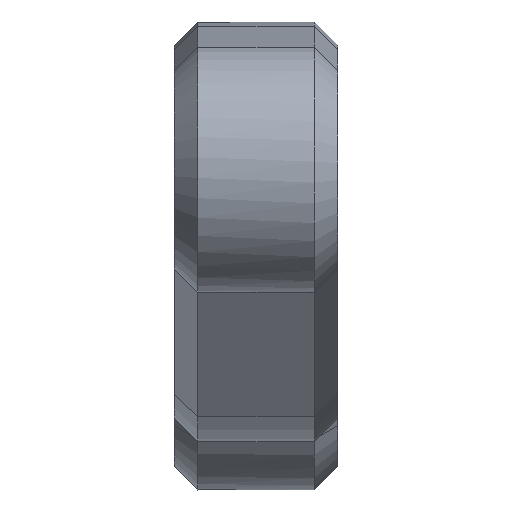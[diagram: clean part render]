
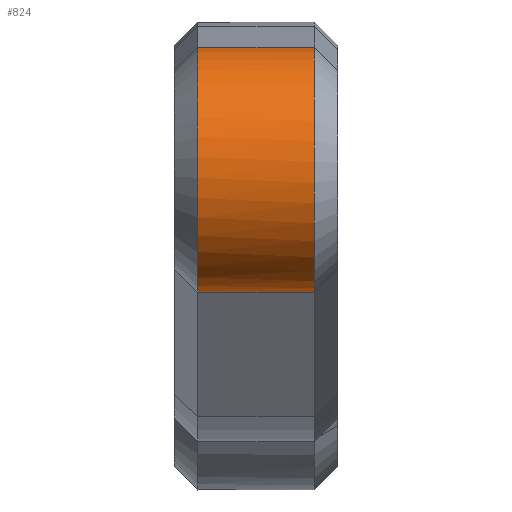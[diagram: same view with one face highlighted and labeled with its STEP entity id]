
A CAD part, left-side view. The second image highlights one B-rep face of the part: STEP entity #824.
In plain terms, the highlighted cylindrical face has radius 15.875 mm (diameter 31.75 mm), a partial arc.
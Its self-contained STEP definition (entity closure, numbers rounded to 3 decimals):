
#3 = CARTESIAN_POINT ( 'NONE',  ( 0., -6.35, 0. ) ) ;
#13 = VECTOR ( 'NONE', #454, 1000. ) ;
#61 = CARTESIAN_POINT ( 'NONE',  ( 8.841, 7.5, -13.185 ) ) ;
#65 = VERTEX_POINT ( 'NONE', #1569 ) ;
#66 = CARTESIAN_POINT ( 'NONE',  ( 8.841, -5.556, -13.185 ) ) ;
#67 = DIRECTION ( 'NONE',  ( 0., -1., 0. ) ) ;
#172 = FACE_OUTER_BOUND ( 'NONE', #1654, .T. ) ;
#226 = DIRECTION ( 'NONE',  ( 0., -1., 0. ) ) ;
#318 = ORIENTED_EDGE ( 'NONE', *, *, #1404, .T. ) ;
#361 = VERTEX_POINT ( 'NONE', #1678 ) ;
#454 = DIRECTION ( 'NONE',  ( 0., 1., 0. ) ) ;
#524 = CARTESIAN_POINT ( 'NONE',  ( 0., -7.5, 0. ) ) ;
#545 = AXIS2_PLACEMENT_3D ( 'NONE', #1588, #226, #2343 ) ;
#613 = CARTESIAN_POINT ( 'NONE',  ( -2.209, -7.5, 15.721 ) ) ;
#716 = DIRECTION ( 'NONE',  ( 0., 1., 0. ) ) ;
#797 = ORIENTED_EDGE ( 'NONE', *, *, #959, .T. ) ;
#824 = ADVANCED_FACE ( 'NONE', ( #172 ), #2292, .T. ) ;
#856 = AXIS2_PLACEMENT_3D ( 'NONE', #3, #956, #1913 ) ;
#930 = ORIENTED_EDGE ( 'NONE', *, *, #946, .F. ) ;
#946 = EDGE_CURVE ( 'NONE', #1296, #2145, #1381, .T. ) ;
#956 = DIRECTION ( 'NONE',  ( 0., 1., 0. ) ) ;
#959 = EDGE_CURVE ( 'NONE', #65, #2145, #1188, .T. ) ;
#967 = ORIENTED_EDGE ( 'NONE', *, *, #2122, .T. ) ;
#1098 = CIRCLE ( 'NONE', #2262, 15.875 ) ;
#1188 = CIRCLE ( 'NONE', #545, 15.875 ) ;
#1226 = AXIS2_PLACEMENT_3D ( 'NONE', #1989, #67, #2149 ) ;
#1296 = VERTEX_POINT ( 'NONE', #1465 ) ;
#1381 = LINE ( 'NONE', #66, #13 ) ;
#1404 = EDGE_CURVE ( 'NONE', #1832, #361, #2256, .T. ) ;
#1415 = VECTOR ( 'NONE', #1491, 1000. ) ;
#1465 = CARTESIAN_POINT ( 'NONE',  ( 8.841, -7.5, -13.185 ) ) ;
#1476 = DIRECTION ( 'NONE',  ( 0., 0., 1. ) ) ;
#1491 = DIRECTION ( 'NONE',  ( 0., 1., 0. ) ) ;
#1569 = CARTESIAN_POINT ( 'NONE',  ( 0., 7.5, -15.875 ) ) ;
#1588 = CARTESIAN_POINT ( 'NONE',  ( 0., 7.5, 0. ) ) ;
#1654 = EDGE_LOOP ( 'NONE', ( #318, #2271, #797, #930, #967 ) ) ;
#1655 = EDGE_CURVE ( 'NONE', #361, #65, #1941, .T. ) ;
#1678 = CARTESIAN_POINT ( 'NONE',  ( -2.209, 7.5, 15.721 ) ) ;
#1832 = VERTEX_POINT ( 'NONE', #613 ) ;
#1913 = DIRECTION ( 'NONE',  ( 1., 0., 0. ) ) ;
#1941 = CIRCLE ( 'NONE', #1226, 15.875 ) ;
#1989 = CARTESIAN_POINT ( 'NONE',  ( 0., 7.5, 0. ) ) ;
#2122 = EDGE_CURVE ( 'NONE', #1296, #1832, #1098, .T. ) ;
#2145 = VERTEX_POINT ( 'NONE', #61 ) ;
#2149 = DIRECTION ( 'NONE',  ( 0., 0., 1. ) ) ;
#2256 = LINE ( 'NONE', #2456, #1415 ) ;
#2262 = AXIS2_PLACEMENT_3D ( 'NONE', #524, #716, #1476 ) ;
#2271 = ORIENTED_EDGE ( 'NONE', *, *, #1655, .T. ) ;
#2292 = CYLINDRICAL_SURFACE ( 'NONE', #856, 15.875 ) ;
#2343 = DIRECTION ( 'NONE',  ( 0., 0., 1. ) ) ;
#2456 = CARTESIAN_POINT ( 'NONE',  ( -2.209, -5.556, 15.721 ) ) ;
